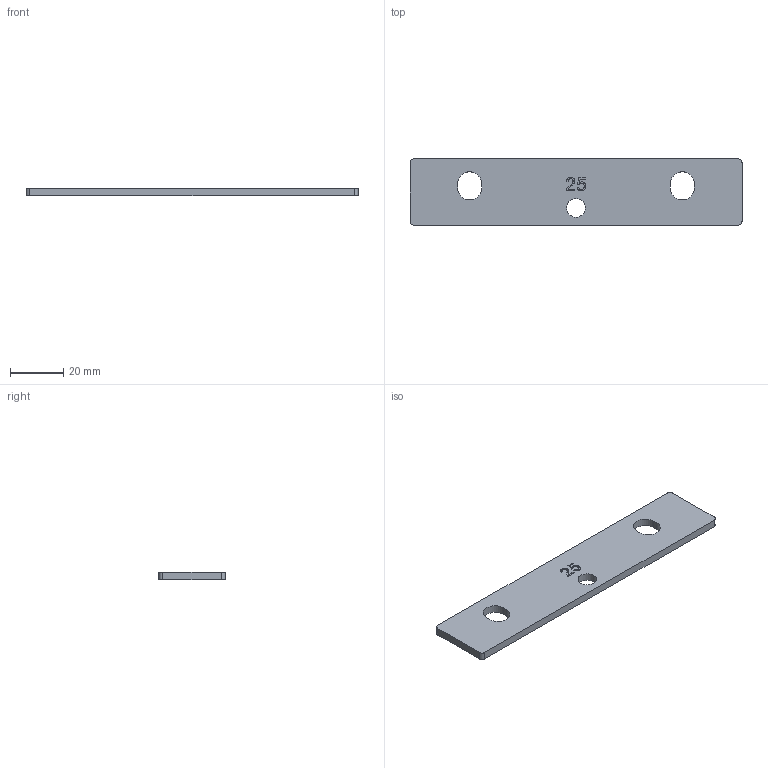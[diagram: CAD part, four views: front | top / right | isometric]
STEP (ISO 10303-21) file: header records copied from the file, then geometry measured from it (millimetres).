
FILE_DESCRIPTION(('STEP AP242'),'1');
FILE_NAME('hm Gressel Hilma.stp','2024-06-17T13:15:07',('WM'),('Schleif-Tec'),'Spatial InterOp 3D','CimatronE 16.0',' ');
FILE_SCHEMA(('AP242_MANAGED_MODEL_BASED_3D_ENGINEERING_MIM_LF'));
Length unit declared in the file: millimetre
Products named in the file (1): 13
Bounding box: 125 x 25 x 3 mm (x, y, z)
Volume: 8783 mm3; surface area: 7014.1 mm2
Topology: 1 solids, 1 shells, 36 faces, 97 edges, 65 vertices
Faces by surface type: plane 23, cylinder 9, extrusion 4
Full cylindrical faces by diameter (mm): 7 x1
Entity records: 1736 total; most frequent: CARTESIAN_POINT 511, ORIENTED_EDGE 190, DIRECTION 175, EDGE_CURVE 95, VECTOR 73, LINE 69, VERTEX_POINT 64, AXIS2_PLACEMENT_3D 51
